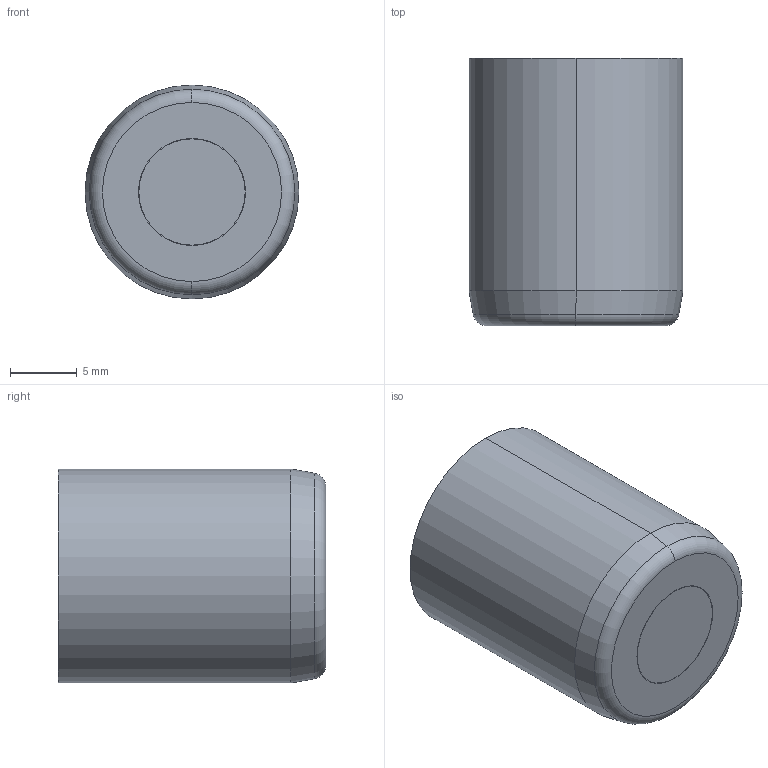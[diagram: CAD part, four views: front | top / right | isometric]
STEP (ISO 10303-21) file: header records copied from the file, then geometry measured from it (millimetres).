
FILE_DESCRIPTION (( 'STEP AP214' ), '1' );
FILE_NAME ('FA 168712-21.STEP', '2020-08-11T10:50:58', ( '' ), ( '' ), 'SwSTEP 2.0', 'SolidWorks 2019', '' );
FILE_SCHEMA (( 'AUTOMOTIVE_DESIGN' ));
Length unit declared in the file: millimetre
Products named in the file (6): DFA 168700-2 comprimido; DFA 168700-3; DFA 168700-1; D9FA 168712; DIA 871714; FA 168712-21
Assembly tree (5 placements, depth 2):
  FA 168712-21
    D9FA 168712
    DIA 871714
    DFA 168700-3
    DFA 168700-1
    DFA 168700-2 comprimido
Bounding box: 16 x 20 x 16 mm (x, y, z)
Volume: 3764.2 mm3; surface area: 2705.7 mm2
Topology: 5 solids, 5 shells, 334 faces, 850 edges, 553 vertices
Faces by surface type: plane 144, cylinder 133, cone 34, bspline 13, torus 10
Entity records: 12178 total; most frequent: CARTESIAN_POINT 3656, DIRECTION 1772, ORIENTED_EDGE 1696, EDGE_CURVE 848, AXIS2_PLACEMENT_3D 649, VERTEX_POINT 553, LINE 474, VECTOR 474
